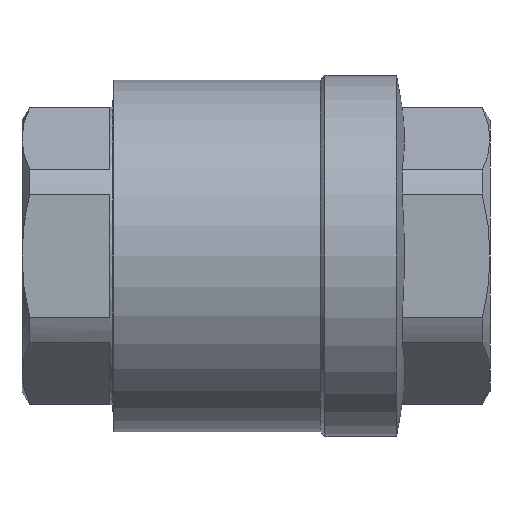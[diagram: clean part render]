
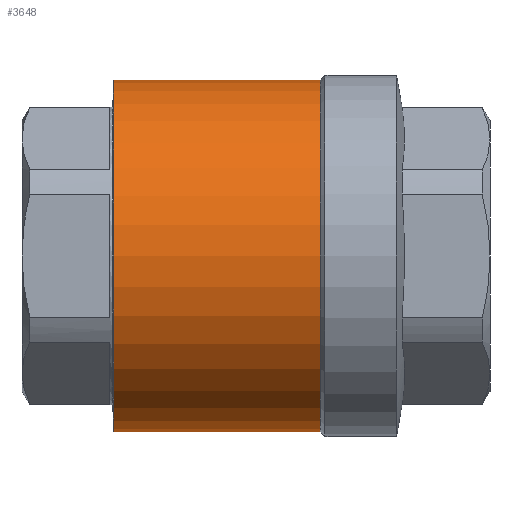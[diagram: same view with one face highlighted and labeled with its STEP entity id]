
A CAD part, front view. The second image highlights one B-rep face of the part: STEP entity #3648.
In plain terms, the highlighted cylindrical face has radius 65 mm (diameter 130 mm), a partial arc.
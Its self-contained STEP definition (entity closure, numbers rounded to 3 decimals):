
#35 = VERTEX_POINT ( 'NONE', #3673 ) ;
#115 = DIRECTION ( 'NONE',  ( -1., 0., 0. ) ) ;
#203 = VERTEX_POINT ( 'NONE', #3664 ) ;
#249 = CARTESIAN_POINT ( 'NONE',  ( -52.5, 0., -65. ) ) ;
#557 = CARTESIAN_POINT ( 'NONE',  ( -55.019, 0., 0. ) ) ;
#558 = DIRECTION ( 'NONE',  ( -1., 0., 0. ) ) ;
#629 = AXIS2_PLACEMENT_3D ( 'NONE', #557, #3763, #1437 ) ;
#658 = CIRCLE ( 'NONE', #1029, 65. ) ;
#745 = DIRECTION ( 'NONE',  ( -1., 0., 0. ) ) ;
#957 = CIRCLE ( 'NONE', #2296, 65. ) ;
#993 = EDGE_LOOP ( 'NONE', ( #2965, #2062, #1586, #3207 ) ) ;
#1029 = AXIS2_PLACEMENT_3D ( 'NONE', #3488, #745, #2769 ) ;
#1437 = DIRECTION ( 'NONE',  ( 0., 0., 1. ) ) ;
#1586 = ORIENTED_EDGE ( 'NONE', *, *, #2418, .T. ) ;
#1615 = VECTOR ( 'NONE', #115, 1000. ) ;
#1653 = LINE ( 'NONE', #2005, #3196 ) ;
#1829 = CARTESIAN_POINT ( 'NONE',  ( -55.019, 0., 65. ) ) ;
#2005 = CARTESIAN_POINT ( 'NONE',  ( -55.019, 0., -65. ) ) ;
#2009 = EDGE_CURVE ( 'NONE', #203, #2056, #658, .T. ) ;
#2056 = VERTEX_POINT ( 'NONE', #3356 ) ;
#2062 = ORIENTED_EDGE ( 'NONE', *, *, #2009, .T. ) ;
#2189 = CYLINDRICAL_SURFACE ( 'NONE', #629, 65. ) ;
#2290 = DIRECTION ( 'NONE',  ( -1., 0., 0. ) ) ;
#2296 = AXIS2_PLACEMENT_3D ( 'NONE', #2308, #558, #2593 ) ;
#2308 = CARTESIAN_POINT ( 'NONE',  ( -52.5, 0., 0. ) ) ;
#2369 = FACE_OUTER_BOUND ( 'NONE', #993, .T. ) ;
#2418 = EDGE_CURVE ( 'NONE', #2056, #35, #2480, .T. ) ;
#2480 = LINE ( 'NONE', #1829, #1615 ) ;
#2593 = DIRECTION ( 'NONE',  ( 0., 0., 1. ) ) ;
#2769 = DIRECTION ( 'NONE',  ( 0., 0., 1. ) ) ;
#2814 = EDGE_CURVE ( 'NONE', #203, #3591, #1653, .T. ) ;
#2853 = EDGE_CURVE ( 'NONE', #3591, #35, #957, .T. ) ;
#2965 = ORIENTED_EDGE ( 'NONE', *, *, #2814, .F. ) ;
#3196 = VECTOR ( 'NONE', #2290, 1000. ) ;
#3207 = ORIENTED_EDGE ( 'NONE', *, *, #2853, .F. ) ;
#3356 = CARTESIAN_POINT ( 'NONE',  ( 23.75, 0., 65. ) ) ;
#3488 = CARTESIAN_POINT ( 'NONE',  ( 23.75, 0., 0. ) ) ;
#3591 = VERTEX_POINT ( 'NONE', #249 ) ;
#3648 = ADVANCED_FACE ( 'NONE', ( #2369 ), #2189, .T. ) ;
#3664 = CARTESIAN_POINT ( 'NONE',  ( 23.75, 0., -65. ) ) ;
#3673 = CARTESIAN_POINT ( 'NONE',  ( -52.5, 0., 65. ) ) ;
#3763 = DIRECTION ( 'NONE',  ( -1., 0., 0. ) ) ;
